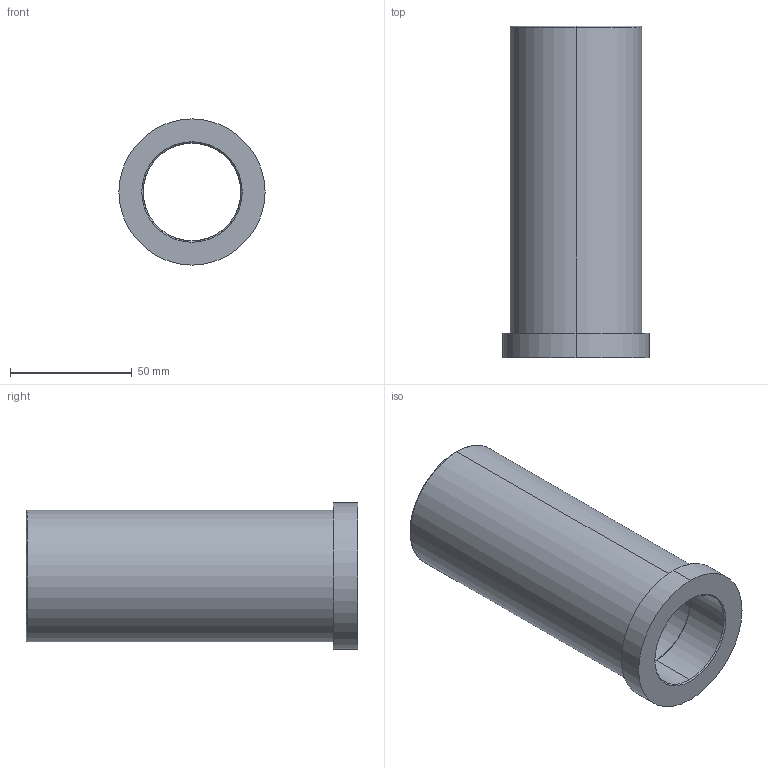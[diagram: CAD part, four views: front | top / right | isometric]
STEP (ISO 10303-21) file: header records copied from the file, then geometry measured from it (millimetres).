
FILE_DESCRIPTION (( 'STEP AP214' ), '1' );
FILE_NAME ('BR11W 40 x 136.STEP', '2020-07-16T11:31:03', ( 'August' ), ( '' ), 'SwSTEP 2.0', 'SolidWorks 2018', '' );
FILE_SCHEMA (( 'AUTOMOTIVE_DESIGN' ));
Length unit declared in the file: millimetre
Products named in the file (1): BR11W 40 x 136
Bounding box: 60 x 136 x 60 mm (x, y, z)
Volume: 145647.7 mm3; surface area: 43386.3 mm2
Topology: 1 solids, 1 shells, 19 faces, 38 edges, 22 vertices
Faces by surface type: cylinder 8, cone 6, plane 3, torus 2
Entity records: 534 total; most frequent: DIRECTION 102, CARTESIAN_POINT 80, ORIENTED_EDGE 76, AXIS2_PLACEMENT_3D 44, EDGE_CURVE 38, CIRCLE 24, VERTEX_POINT 22, EDGE_LOOP 22
